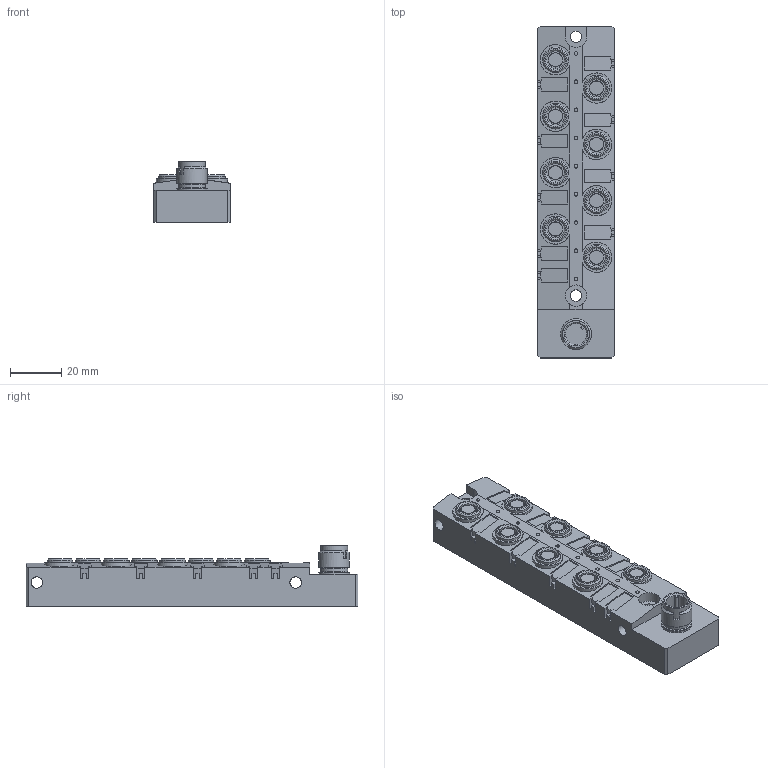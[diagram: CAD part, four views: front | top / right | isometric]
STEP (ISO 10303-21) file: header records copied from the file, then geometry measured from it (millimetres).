
FILE_DESCRIPTION( ( 'STEP AP203' ), ' ' );
FILE_NAME( 'p:/temp/worker_617/5520_5756/app_57_02018010313482770132156192d056f_000000_00_00_000000/format_3/AL2411.stp', '2018-01-03T12:48:33', ( '' ), ( '' ), ' ', 'PARTsolutions', ' ' );
FILE_SCHEMA( ( 'CONFIG_CONTROL_DESIGN' ) );
Length unit declared in the file: millimetre
Products named in the file (1): _AL2411
Bounding box: 30 x 129.5 x 23.7 mm (x, y, z)
Volume: 58633.2 mm3; surface area: 19237.3 mm2
Topology: 1 solids, 10 shells, 629 faces, 1665 edges, 1102 vertices
Faces by surface type: plane 504, cylinder 87, cone 19, torus 10, sphere 9
Full cylindrical faces by diameter (mm): 4.5 x8, 5.65 x8, 6.917 x8, 8.4 x2, 10 x8, 10.5 x1, 10.6 x1, 12 x1, 12.05 x1
Entity records: 18917 total; most frequent: CARTESIAN_POINT 3322, ORIENTED_EDGE 3178, DIRECTION 3069, EDGE_CURVE 1589, LINE 1361, VECTOR 1361, VERTEX_POINT 1091, AXIS2_PLACEMENT_3D 854
